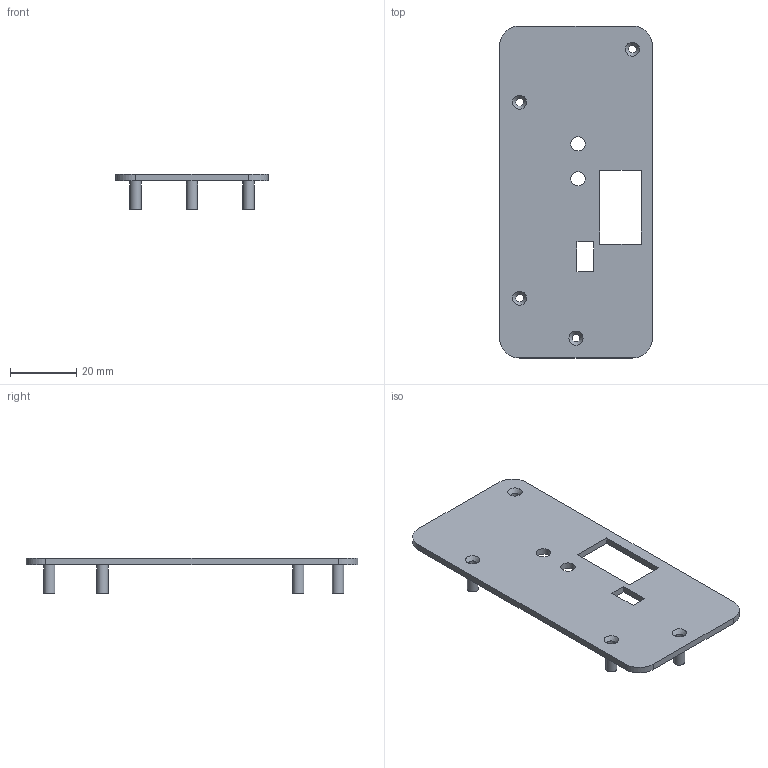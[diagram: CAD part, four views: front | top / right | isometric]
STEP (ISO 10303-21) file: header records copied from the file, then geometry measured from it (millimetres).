
FILE_DESCRIPTION(('Open CASCADE Model'),'2;1');
FILE_NAME('Open CASCADE Shape Model','2026-09-10T00:40:43',('Author'),( 'Open CASCADE'),'Open CASCADE STEP processor 7.8','Open CASCADE 7.8' ,'Unknown');
FILE_SCHEMA(('AUTOMOTIVE_DESIGN { 1 0 10303 214 1 1 1 1 }'));
Length unit declared in the file: millimetre
Products named in the file (1): Open CASCADE STEP translator 7.8 2
Bounding box: 46 x 100 x 10.7 mm (x, y, z)
Volume: 8534.5 mm3; surface area: 9894.3 mm2
Topology: 1 solids, 1 shells, 36 faces, 86 edges, 56 vertices
Faces by surface type: plane 18, cylinder 14, cone 4
Full cylindrical faces by diameter (mm): 2.4 x4, 3.4 x4, 4.3 x2
Entity records: 2184 total; most frequent: CARTESIAN_POINT 377, DIRECTION 338, ORIENTED_EDGE 172, PCURVE 172, DEFINITIONAL_REPRESENTATION 172, LINE 172, VECTOR 172, EDGE_CURVE 86
